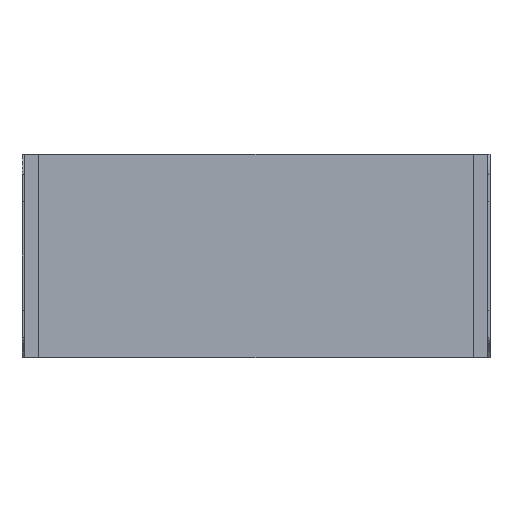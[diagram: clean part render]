
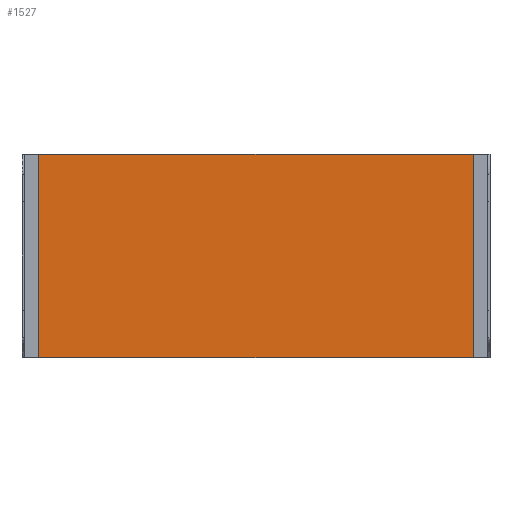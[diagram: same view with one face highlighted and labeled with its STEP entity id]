
A CAD part, front view. The second image highlights one B-rep face of the part: STEP entity #1527.
In plain terms, the highlighted planar face has unit normal (0, -1, 0).
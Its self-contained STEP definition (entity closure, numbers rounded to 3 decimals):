
#35 = VECTOR ( 'NONE', #905, 1000. ) ;
#68 = VECTOR ( 'NONE', #972, 1000. ) ;
#71 = LINE ( 'NONE', #974, #68 ) ;
#256 = LINE ( 'NONE', #413, #259 ) ;
#259 = VECTOR ( 'NONE', #412, 1000. ) ;
#300 = FACE_OUTER_BOUND ( 'NONE', #666, .T. ) ;
#310 = DIRECTION ( 'NONE',  ( -1., 0., 0. ) ) ;
#311 = DIRECTION ( 'NONE',  ( 0., 1., 0. ) ) ;
#318 = CARTESIAN_POINT ( 'NONE',  ( -304.8, -68., 142.5 ) ) ;
#321 = PLANE ( 'NONE',  #621 ) ;
#412 = DIRECTION ( 'NONE',  ( 1., 0., 0. ) ) ;
#413 = CARTESIAN_POINT ( 'NONE',  ( -304.8, -68., 142.5 ) ) ;
#512 = LINE ( 'NONE', #902, #516 ) ;
#516 = VECTOR ( 'NONE', #897, 1000. ) ;
#621 = AXIS2_PLACEMENT_3D ( 'NONE', #318, #311, #310 ) ;
#666 = EDGE_LOOP ( 'NONE', ( #1159, #1170, #1168, #781 ) ) ;
#741 = VERTEX_POINT ( 'NONE', #1176 ) ;
#743 = VERTEX_POINT ( 'NONE', #1173 ) ;
#747 = VERTEX_POINT ( 'NONE', #959 ) ;
#760 = VERTEX_POINT ( 'NONE', #886 ) ;
#781 = ORIENTED_EDGE ( 'NONE', *, *, #1418, .T. ) ;
#886 = CARTESIAN_POINT ( 'NONE',  ( -304.8, -68., -142.5 ) ) ;
#889 = LINE ( 'NONE', #912, #35 ) ;
#897 = DIRECTION ( 'NONE',  ( 0., 0., -1. ) ) ;
#902 = CARTESIAN_POINT ( 'NONE',  ( 304.8, -68., 142.5 ) ) ;
#905 = DIRECTION ( 'NONE',  ( 0., 0., -1. ) ) ;
#912 = CARTESIAN_POINT ( 'NONE',  ( -304.8, -68., 142.5 ) ) ;
#959 = CARTESIAN_POINT ( 'NONE',  ( 304.8, -68., 142.5 ) ) ;
#972 = DIRECTION ( 'NONE',  ( 1., 0., 0. ) ) ;
#974 = CARTESIAN_POINT ( 'NONE',  ( -304.8, -68., -142.5 ) ) ;
#1159 = ORIENTED_EDGE ( 'NONE', *, *, #1369, .T. ) ;
#1168 = ORIENTED_EDGE ( 'NONE', *, *, #1498, .F. ) ;
#1170 = ORIENTED_EDGE ( 'NONE', *, *, #1419, .F. ) ;
#1173 = CARTESIAN_POINT ( 'NONE',  ( -304.8, -68., 142.5 ) ) ;
#1176 = CARTESIAN_POINT ( 'NONE',  ( 304.8, -68., -142.5 ) ) ;
#1369 = EDGE_CURVE ( 'NONE', #760, #741, #71, .T. ) ;
#1418 = EDGE_CURVE ( 'NONE', #743, #760, #889, .T. ) ;
#1419 = EDGE_CURVE ( 'NONE', #747, #741, #512, .T. ) ;
#1498 = EDGE_CURVE ( 'NONE', #743, #747, #256, .T. ) ;
#1527 = ADVANCED_FACE ( 'NONE', ( #300 ), #321, .F. ) ;
